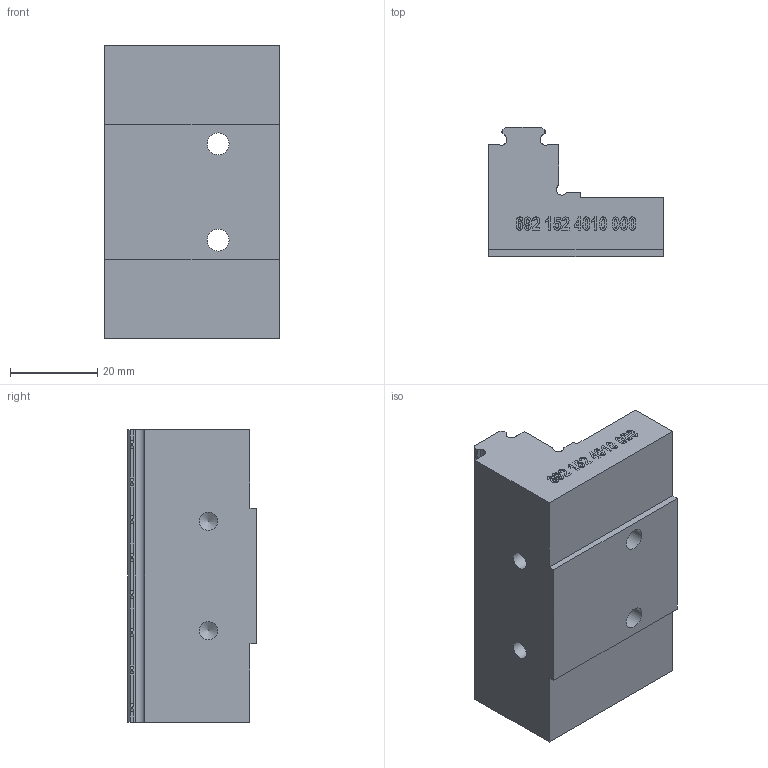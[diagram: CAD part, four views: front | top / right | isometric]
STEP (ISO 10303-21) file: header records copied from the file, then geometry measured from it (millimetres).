
FILE_DESCRIPTION (( 'STEP AP214' ), '1' );
FILE_NAME ('3D-6921524010000.STEP', '2023-12-04T08:59:02', ( '' ), ( '' ), 'SwSTEP 2.0', 'SolidWorks 2021', '' );
FILE_SCHEMA (( 'AUTOMOTIVE_DESIGN' ));
Length unit declared in the file: millimetre
Products named in the file (1): 3D-6921524010000
Bounding box: 40 x 29.5 x 67 mm (x, y, z)
Volume: 47948.9 mm3; surface area: 11808.1 mm2
Topology: 1 solids, 1 shells, 264 faces, 719 edges, 478 vertices
Faces by surface type: plane 121, bspline 95, cylinder 42, cone 6
Full cylindrical faces by diameter (mm): 4.2 x4, 5 x2
Entity records: 13777 total; most frequent: CARTESIAN_POINT 7861, ORIENTED_EDGE 1402, DIRECTION 809, EDGE_CURVE 701, VERTEX_POINT 472, VECTOR 425, LINE 425, EDGE_LOOP 301
